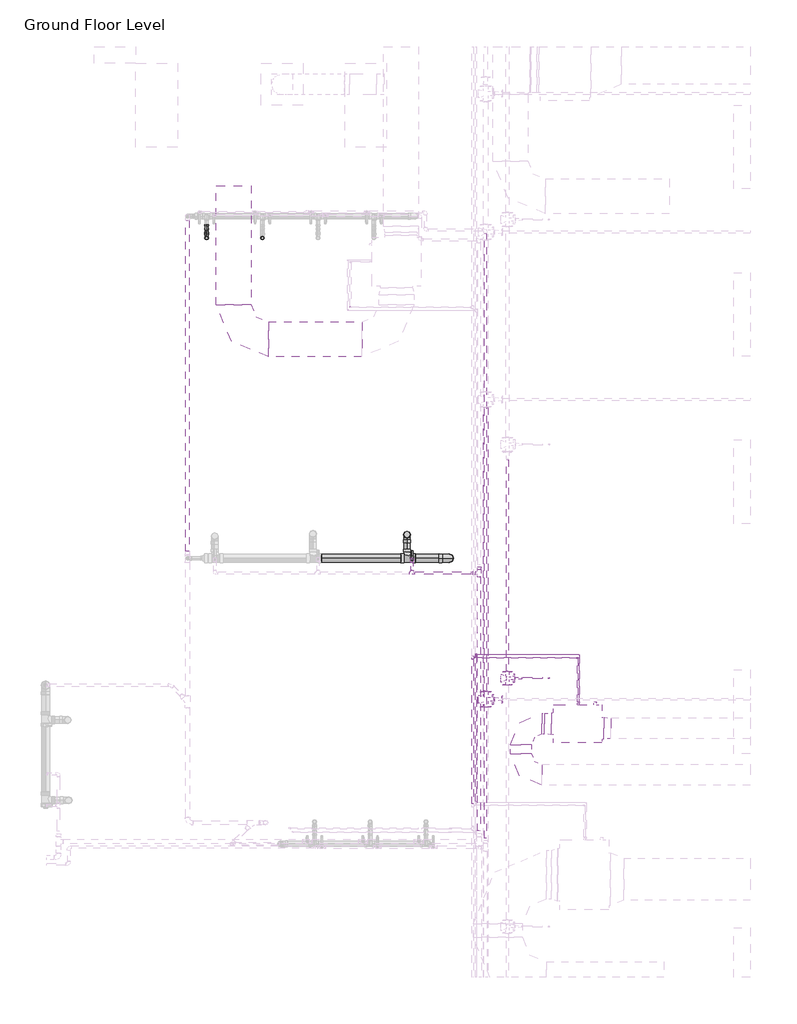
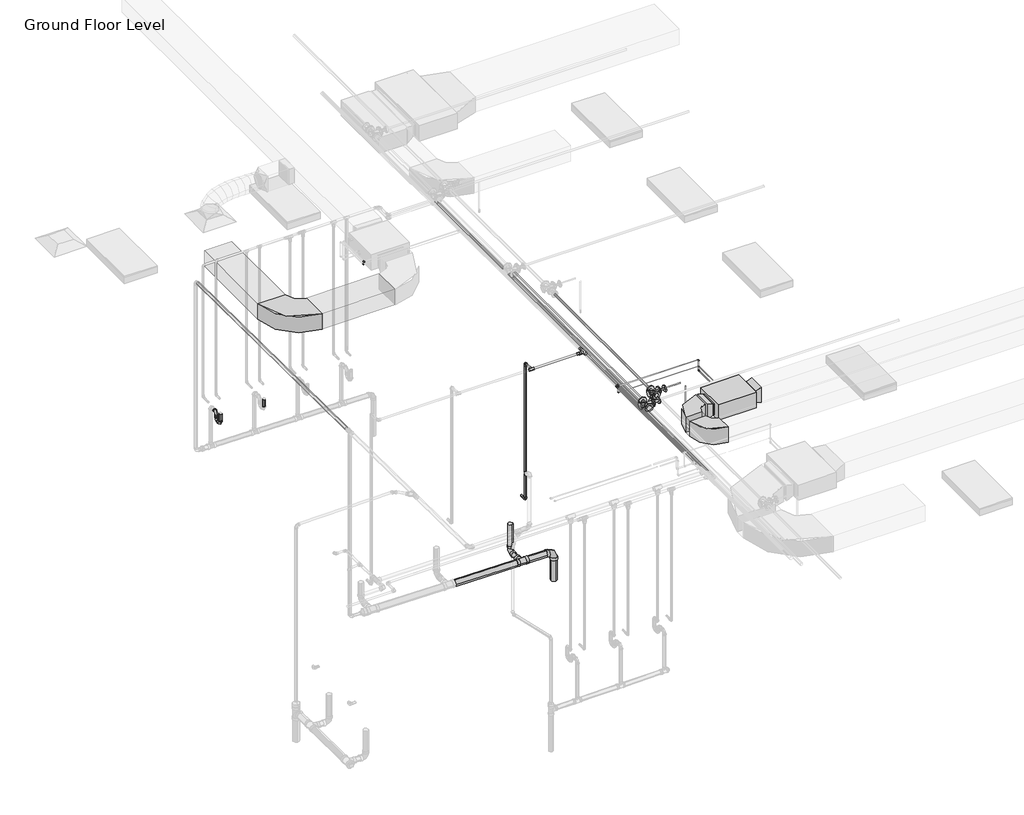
# One storey, part 20 of 68: 29 pipe segments, 26 pipe fittings, 5 duct fittings, 4 duct segments, 1 fire suppression terminal, 1 proxy.
"""IFC4 building model written with IfcOpenShell, lengths in millimetres."""

from ifc_helpers import new_model, si_unit, point, frame, frame_2d, origin, place, context, project, spatial, polyline, circle_curve, trimmed, segment, composite_curve, outline, extrude, transform, mapped, element, save
from components import fcu_daikin_iu_27d020f6, m_rectangular_elbow_radius_1_w_618da153, m_rectangular_elbow_radius_1_w_abe20169, m_rectangular_transition_angle_45_degree_bfac0661, m_rectangular_transition_angle_45_degree_d4666cfa, m_sprinkler_pendent_15_mm_pendent_06fcbd8e, m_bend_pvc_sch_40_dwv_standard_a4b99d37, m_bend_pvc_sch_40_dwv_standard_aa7efa4c, m_bend_pvc_sch_40_dwv_standard_1e7bdcc1, m_bend_pvc_sch_40_dwv_standard_776e50c4, m_elbow_generic_standard_a088f956, m_elbow_generic_standard_2a704253, m_reducer_flanged_cs_class_150_standard_d42b2106, m_reducer_flanged_cs_class_150_standard_a7631c35, m_tee_generic_standard_5b2ed4d4, m_tee_generic_standard_5078887e, m_tee_reducing_sanitary_pvc_sch_40_dwv_standard_b49161a9, m_tee_round_base_flanged_cs_class_150_standard_dd767e04, m_tee_round_base_flanged_cs_class_150_standard_7e5987a1, m_transition_generic_standard_44e35838, m_transition_generic_standard_2d362458, standard_517a5a8d, standard_72b35c3b, standard_08ff6011, standard_d0d0b892

model = new_model("IFC4")

# Units and contexts
model_context = context("Model", 3, world=origin())
ifc_project = project(units=[si_unit("LENGTHUNIT", "METRE", prefix="MILLI")], contexts=[model_context])

# Site, building, storey
site = spatial("IfcSite", under=ifc_project)
building = spatial("IfcBuilding", under=site)
storey = spatial("IfcBuildingStorey", under=building, Name="Ground Floor Level", Elevation=900.0)

# Proxy
placement = place(None, origin())
fcu_daikin_iu_shape = fcu_daikin_iu_27d020f6(model_context)
element("IfcBuildingElementProxy", 1, Name="FCU-DAIKIN IU : 2.3kW, 230V/50Hz/1Ph", ObjectType="FCU-DAIKIN IU : 2.3kW, 230V/50Hz/1Ph", at=placement, inside=storey, context=model_context, shape_type="MappedRepresentation", body=[
    mapped(fcu_daikin_iu_shape, transform((7003.8644074, -31136.6877703, 4080.0), x_axis=(0.0, 1.0, 0.0), y_axis=(-1.0, 0.0, 0.0), z_axis=(0.0, 0.0, 1.0))),
])

# Duct fittings
m_rectangular_elbow_radius_1_w_shape = m_rectangular_elbow_radius_1_w_618da153(model_context)
element("IfcDuctFitting", 2, ObjectType="M_Rectangular Elbow - Radius : 1 W", at=placement, inside=storey, context=model_context, shape_type="MappedRepresentation", body=[
    mapped(m_rectangular_elbow_radius_1_w_shape, transform((6188.4644074, -31136.6877703, 4221.2), x_axis=(-1.0, 0.0, 0.0), y_axis=(0.0, -1.0, 0.0), z_axis=(0.0, 0.0, 1.0))),
])
element("IfcDuctFitting", 3, ObjectType="M_Rectangular Elbow - Radius : 1 W", at=placement, inside=storey, context=model_context, shape_type="MappedRepresentation", body=[
    mapped(m_rectangular_elbow_radius_1_w_shape, transform((6188.4644074, -31864.7846466, 4221.2), x_axis=(0.0, -1.0, 0.0), y_axis=(1.0, 0.0, 0.0), z_axis=(0.0, 0.0, 1.0))),
])
m_rectangular_elbow_radius_1_w_2_shape = m_rectangular_elbow_radius_1_w_abe20169(model_context)
element("IfcDuctFitting", 4, ObjectType="M_Rectangular Elbow - Radius : 1 W", at=placement, inside=storey, context=model_context, shape_type="MappedRepresentation", body=[
    mapped(m_rectangular_elbow_radius_1_w_2_shape, transform((2065.6581888, -25622.6440715, 4075.2875), x_axis=(0.0, -1.0, 0.0), y_axis=(1.0, 0.0, 0.0), z_axis=(0.0, 0.0, 1.0))),
])
m_rectangular_transition_angle_45_degree_shape = m_rectangular_transition_angle_45_degree_bfac0661(model_context)
element("IfcDuctFitting", 5, ObjectType="M_Rectangular Transition - Angle : 45 Degree", at=placement, inside=storey, context=model_context, shape_type="MappedRepresentation", body=[
    mapped(m_rectangular_transition_angle_45_degree_shape, transform((6628.4644074, -31136.6877703, 4221.2), x_axis=(-1.0, 0.0, 0.0), y_axis=(0.0, -1.0, 0.0), z_axis=(0.0, 0.0, 1.0))),
])
m_rectangular_transition_angle_45_degree_2_shape = m_rectangular_transition_angle_45_degree_d4666cfa(model_context)
element("IfcDuctFitting", 6, ObjectType="M_Rectangular Transition - Angle : 45 Degree", at=placement, inside=storey, context=model_context, shape_type="MappedRepresentation", body=[
    mapped(m_rectangular_transition_angle_45_degree_2_shape, transform((7379.2644074, -31200.1877703, 4245.9125), x_axis=(1.0, 0.0, 0.0), y_axis=(0.0, 1.0, 0.0), z_axis=(0.0, 0.0, 1.0))),
])

# Duct segments
element("IfcDuctSegment", 7, ObjectType="Radius Elbows / Taps", at=placement, inside=storey, context=model_context, shape_type="SweptSolid", body=[
    extrude(outline(polyline([(0.0, -500.0), (0.0, 0.0), (1339.9999945, 0.0), (1339.9999945, -500.0), (0.0, -500.0)])), frame((3905.660192, -25872.6440715, 3925.3054453), z_axis=(-1.3392036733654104e-05, 0.0, 0.9999999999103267), x_axis=(-0.9999999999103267, 0.0, -1.3392036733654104e-05)), (0.0, 0.0, 1.0), 300.0),
])
element("IfcDuctSegment", 8, ObjectType="Radius Elbows / Taps", at=placement, inside=storey, context=model_context, shape_type="SweptSolid", body=[
    extrude(outline(polyline([(2315.6581888, -25122.6440715), (1815.6581888, -25122.6440715), (1815.6581888, -23422.6440715), (2315.6581888, -23422.6440715), (2315.6581888, -25122.6440715)])), frame((0.0, 0.0, 3925.2875), z_axis=(0.0, 0.0, 1.0), x_axis=(1.0, 0.0, 0.0)), (0.0, 0.0, 1.0), 300.0),
])
element("IfcDuctSegment", 9, ObjectType="Radius Elbows / Taps", at=placement, inside=storey, context=model_context, shape_type="SweptSolid", body=[
    extrude(outline(polyline([(6525.0153563, -30986.6877703), (6525.0153563, -31286.6877703), (6488.4644074, -31286.6877703), (6488.4644074, -30986.6877703), (6525.0153563, -30986.6877703)])), frame((0.0, 0.0, 4071.2), z_axis=(0.0, 0.0, 1.0), x_axis=(1.0, 0.0, 0.0)), (0.0, 0.0, 1.0), 300.0),
])
element("IfcDuctSegment", 10, ObjectType="Radius Elbows / Taps", at=placement, inside=storey, context=model_context, shape_type="SweptSolid", body=[
    extrude(outline(polyline([(6038.4644074, -31436.6877703), (6338.4644074, -31436.6877703), (6338.4644074, -31564.7846466), (6038.4644074, -31564.7846466), (6038.4644074, -31436.6877703)])), frame((0.0, 0.0, 4071.2), z_axis=(0.0, 0.0, 1.0), x_axis=(1.0, 0.0, 0.0)), (0.0, 0.0, 1.0), 300.0),
])

# Fire suppression terminal
m_sprinkler_pendent_15_mm_pendent_shape = m_sprinkler_pendent_15_mm_pendent_06fcbd8e(model_context)
element("IfcFireSuppressionTerminal", 11, ObjectType="M_Sprinkler - Pendent : 15 mm Pendent", at=placement, inside=storey, context=model_context, shape_type="MappedRepresentation", body=[
    mapped(m_sprinkler_pendent_15_mm_pendent_shape, transform((6592.5481019, -30483.0742399, 3650.0), x_axis=(1.0, 0.0, 0.0), y_axis=(0.0, 1.0, 0.0), z_axis=(0.0, 0.0, 1.0))),
])

# Pipe fittings
m_bend_pvc_sch_40_dwv_standard_shape = m_bend_pvc_sch_40_dwv_standard_a4b99d37(model_context)
element("IfcPipeFitting", 12, ObjectType="M_Bend - PVC - Sch 40 - DWV : Standard", at=placement, inside=storey, context=model_context, shape_type="MappedRepresentation", body=[
    mapped(m_bend_pvc_sch_40_dwv_standard_shape, transform((4553.7150181, -28421.2419494, 454.489269), x_axis=(0.0, 0.0, -1.0), y_axis=(0.0, -1.0, 0.0), z_axis=(-1.0, 0.0, 0.0))),
])
m_bend_pvc_sch_40_dwv_standard_2_shape = m_bend_pvc_sch_40_dwv_standard_aa7efa4c(model_context)
element("IfcPipeFitting", 13, ObjectType="M_Bend - PVC - Sch 40 - DWV : Standard", at=placement, inside=storey, context=model_context, shape_type="MappedRepresentation", body=[
    mapped(m_bend_pvc_sch_40_dwv_standard_2_shape, transform((5158.4803359, -28761.5689421, 448.4416158), x_axis=(0.9999500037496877, 0.0, -0.00999950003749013), y_axis=(-0.00999950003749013, 0.0, -0.9999500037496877), z_axis=(0.0, 1.0, 0.0))),
])
m_bend_pvc_sch_40_dwv_standard_3_shape = m_bend_pvc_sch_40_dwv_standard_1e7bdcc1(model_context)
element("IfcPipeFitting", 14, ObjectType="M_Bend - PVC - Sch 40 - DWV : Standard", at=placement, inside=storey, context=model_context, shape_type="MappedRepresentation", body=[
    mapped(m_bend_pvc_sch_40_dwv_standard_3_shape, transform((1678.7498, -24168.3528578, 1360.0000049), x_axis=(0.0, 0.0, -1.0), y_axis=(0.0, 1.0, 0.0), z_axis=(1.0, 0.0, 0.0))),
])
m_bend_pvc_sch_40_dwv_standard_4_shape = m_bend_pvc_sch_40_dwv_standard_776e50c4(model_context)
element("IfcPipeFitting", 15, ObjectType="M_Bend - PVC - Sch 40 - DWV : Standard", at=placement, inside=storey, context=model_context, shape_type="MappedRepresentation", body=[
    mapped(m_bend_pvc_sch_40_dwv_standard_4_shape, transform((1678.7498, -24038.3523645, 1358.7), x_axis=(0.0, 0.9999500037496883, -0.009999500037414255), y_axis=(0.0, 0.009999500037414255, 0.9999500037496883), z_axis=(1.0, 0.0, 0.0))),
])
element("IfcPipeFitting", 16, ObjectType="M_Bend - PVC - Sch 40 - DWV : Standard", at=placement, inside=storey, context=model_context, shape_type="MappedRepresentation", body=[
    mapped(m_bend_pvc_sch_40_dwv_standard_4_shape, transform((1678.7498, -24038.3523645, 1510.0493267), x_axis=(0.0, 0.0, 1.0), y_axis=(0.0, 1.0, 0.0), z_axis=(-1.0, 0.0, 0.0))),
])
m_elbow_generic_standard_shape = m_elbow_generic_standard_a088f956(model_context)
element("IfcPipeFitting", 17, ObjectType="M_Elbow - Generic : Standard", at=placement, inside=storey, context=model_context, shape_type="MappedRepresentation", body=[
    mapped(m_elbow_generic_standard_shape, transform((7003.8644074, -30187.4513653, 4390.0), x_axis=(1.0, 0.0, 0.0), y_axis=(0.0, 0.0, -1.0), z_axis=(0.0, 1.0, 0.0))),
])
element("IfcPipeFitting", 18, ObjectType="M_Elbow - Generic : Standard", at=placement, inside=storey, context=model_context, shape_type="MappedRepresentation", body=[
    mapped(m_elbow_generic_standard_shape, transform((7003.8644074, -30187.4513653, 4180.0), x_axis=(0.0, 0.0, -1.0), y_axis=(0.0, -1.0, 0.0), z_axis=(-1.0, 0.0, 0.0))),
])
element("IfcPipeFitting", 19, ObjectType="M_Elbow - Generic : Standard", at=placement, inside=storey, context=model_context, shape_type="MappedRepresentation", body=[
    mapped(m_elbow_generic_standard_shape, transform((3741.7995393, -25162.0896488, 4390.0), x_axis=(0.0, -1.0, 0.0), y_axis=(1.0, 0.0, 0.0), z_axis=(0.0, 0.0, 1.0))),
])
m_elbow_generic_standard_2_shape = m_elbow_generic_standard_2a704253(model_context)
element("IfcPipeFitting", 20, ObjectType="M_Elbow - Generic : Standard", at=placement, inside=storey, context=model_context, shape_type="MappedRepresentation", body=[
    mapped(m_elbow_generic_standard_2_shape, transform((3705.4496688, -25206.4899508, 4377.5), x_axis=(0.0, -1.0, 0.0), y_axis=(1.0, 0.0, 0.0), z_axis=(0.0, 0.0, 1.0))),
])
element("IfcPipeFitting", 21, ObjectType="M_Elbow - Generic : Standard", at=placement, inside=storey, context=model_context, shape_type="MappedRepresentation", body=[
    mapped(m_elbow_generic_standard_2_shape, transform((7028.8644074, -30144.9316538, 4230.8), x_axis=(0.0, 1.0, 0.0), y_axis=(-1.0, 0.0, 0.0), z_axis=(0.0, 0.0, 1.0))),
])
element("IfcPipeFitting", 22, ObjectType="M_Elbow - Generic : Standard", at=placement, inside=storey, context=model_context, shape_type="MappedRepresentation", body=[
    mapped(m_elbow_generic_standard_2_shape, transform((5543.9904113, -30144.9316538, 4230.8), x_axis=(0.0, 0.0, -1.0), y_axis=(1.0, 0.0, 0.0), z_axis=(0.0, -1.0, 0.0))),
])
m_reducer_flanged_cs_class_150_standard_shape = m_reducer_flanged_cs_class_150_standard_d42b2106(model_context)
element("IfcPipeFitting", 23, ObjectType="M_Reducer - Flanged - CS - Class 150 : Standard", at=placement, inside=storey, context=model_context, shape_type="MappedRepresentation", body=[
    mapped(m_reducer_flanged_cs_class_150_standard_shape, transform((6097.7664057, -30483.0742399, 4291.2754753), x_axis=(1.0, 0.0, 0.0), y_axis=(0.0, 0.0, -1.0), z_axis=(0.0, 1.0, 0.0))),
])
m_reducer_flanged_cs_class_150_standard_2_shape = m_reducer_flanged_cs_class_150_standard_a7631c35(model_context)
element("IfcPipeFitting", 24, ObjectType="M_Reducer - Flanged - CS - Class 150 : Standard", at=placement, inside=storey, context=model_context, shape_type="MappedRepresentation", body=[
    mapped(m_reducer_flanged_cs_class_150_standard_2_shape, transform((5798.6174894, -30785.1783804, 4347.5), x_axis=(1.0, 0.0, 0.0), y_axis=(0.0, 0.0, 1.0), z_axis=(0.0, -1.0, 0.0))),
])
m_tee_generic_standard_shape = m_tee_generic_standard_5b2ed4d4(model_context)
element("IfcPipeFitting", 25, ObjectType="M_Tee - Generic : Standard", at=placement, inside=storey, context=model_context, shape_type="MappedRepresentation", body=[
    mapped(m_tee_generic_standard_shape, transform((5543.9904113, -30144.9316538, 4377.5), x_axis=(0.0, -1.0, 0.0), y_axis=(0.0, 0.0, 1.0), z_axis=(-1.0, 0.0, 0.0))),
])
m_tee_generic_standard_2_shape = m_tee_generic_standard_5078887e(model_context)
element("IfcPipeFitting", 26, ObjectType="M_Tee - Generic : Standard", at=placement, inside=storey, context=model_context, shape_type="MappedRepresentation", body=[
    mapped(m_tee_generic_standard_2_shape, transform((5497.8951827, -30187.4513653, 4390.0), x_axis=(0.0, -1.0, 0.0), y_axis=(-1.0, 0.0, 0.0), z_axis=(0.0, 0.0, -1.0))),
])
m_tee_reducing_sanitary_pvc_sch_40_dwv_standard_shape = m_tee_reducing_sanitary_pvc_sch_40_dwv_standard_b49161a9(model_context)
element("IfcPipeFitting", 27, ObjectType="M_Tee Reducing Sanitary - PVC - Sch 40 - DWV : Standard", at=placement, inside=storey, context=model_context, shape_type="MappedRepresentation", body=[
    mapped(m_tee_reducing_sanitary_pvc_sch_40_dwv_standard_shape, transform((4553.7150181, -28761.5689421, 454.489269), x_axis=(-0.9999500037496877, 0.0, 0.009999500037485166), y_axis=(0.0, -1.0, 0.0), z_axis=(0.009999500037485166, 0.0, 0.9999500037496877))),
])
m_tee_round_base_flanged_cs_class_150_standard_shape = m_tee_round_base_flanged_cs_class_150_standard_dd767e04(model_context)
element("IfcPipeFitting", 28, ObjectType="M_Tee Round Base - Flanged - CS - Class 150 : Standard", at=placement, inside=storey, context=model_context, shape_type="MappedRepresentation", body=[
    mapped(m_tee_round_base_flanged_cs_class_150_standard_shape, transform((5684.6174894, -30785.1783804, 4347.5), x_axis=(0.0, -1.0, 0.0), y_axis=(-1.0, 0.0, 0.0), z_axis=(0.0, 0.0, -1.0))),
])
m_tee_round_base_flanged_cs_class_150_standard_2_shape = m_tee_round_base_flanged_cs_class_150_standard_7e5987a1(model_context)
element("IfcPipeFitting", 29, ObjectType="M_Tee Round Base - Flanged - CS - Class 150 : Standard", at=placement, inside=storey, context=model_context, shape_type="MappedRepresentation", body=[
    mapped(m_tee_round_base_flanged_cs_class_150_standard_2_shape, transform((5997.057812, -30483.0742399, 4291.0943441), x_axis=(0.0, 1.0, 0.0), y_axis=(-1.0, 0.0, 0.0), z_axis=(0.0, 0.0, 1.0))),
])
m_transition_generic_standard_shape = m_transition_generic_standard_44e35838(model_context)
element("IfcPipeFitting", 30, ObjectType="M_Transition - Generic : Standard", at=placement, inside=storey, context=model_context, shape_type="MappedRepresentation", body=[
    mapped(m_transition_generic_standard_shape, transform((5521.7076827, -30187.4513653, 4390.0), x_axis=(1.0, 0.0, 0.0), y_axis=(0.0, 1.0, 0.0), z_axis=(0.0, 0.0, 1.0))),
])
m_transition_generic_standard_2_shape = m_transition_generic_standard_2d362458(model_context)
element("IfcPipeFitting", 31, ObjectType="M_Transition - Generic : Standard", at=placement, inside=storey, context=model_context, shape_type="MappedRepresentation", body=[
    mapped(m_transition_generic_standard_2_shape, transform((5543.9904113, -30144.9316538, 4356.8625), x_axis=(0.0, 0.0, -1.0), y_axis=(1.0, 0.0, 0.0), z_axis=(0.0, -1.0, 0.0))),
])
standard_shape = standard_517a5a8d(model_context)
element("IfcPipeFitting", 32, ObjectType="M_Elbow - CPVC - Sch 40 : Standard", at=placement, inside=storey, context=model_context, shape_type="MappedRepresentation", body=[
    mapped(standard_shape, transform((4627.1152882, -28774.7846466, 1655.0), x_axis=(0.0, -1.0, 0.0), y_axis=(0.0, 0.0, 1.0), z_axis=(-1.0, 0.0, 0.0))),
])
element("IfcPipeFitting", 33, ObjectType="M_Elbow - CPVC - Sch 40 : Standard", at=placement, inside=storey, context=model_context, shape_type="MappedRepresentation", body=[
    mapped(standard_shape, transform((4627.1152882, -28774.7846466, 4300.0), x_axis=(0.0, 0.0, 1.0), y_axis=(0.0, -1.0, 0.0), z_axis=(1.0, 0.0, 0.0))),
])
standard_2_shape = standard_72b35c3b(model_context)
element("IfcPipeFitting", 34, ObjectType="M_Tee - CPVC - Sch 40 : Standard", at=placement, inside=storey, context=model_context, shape_type="MappedRepresentation", body=[
    mapped(standard_2_shape, transform((4627.1152882, -28974.7846466, 4300.0), x_axis=(-1.0, 0.0, 0.0), y_axis=(0.0, -1.0, 0.0), z_axis=(0.0, 0.0, 1.0))),
])
standard_3_shape = standard_08ff6011(model_context)
element("IfcPipeFitting", 35, ObjectType="M_Tee - CPVC - Sch 40 : Standard", at=placement, inside=storey, context=model_context, shape_type="MappedRepresentation", body=[
    mapped(standard_3_shape, transform((5589.646628, -28974.7846466, 4300.0), x_axis=(0.0, 1.0, 0.0), y_axis=(1.0, 0.0, 0.0), z_axis=(0.0, 0.0, -1.0))),
])
standard_4_shape = standard_d0d0b892(model_context)
element("IfcPipeFitting", 36, ObjectType="M_Coupling Reducing - CPVC - Sch 40 : Standard", at=placement, inside=storey, context=model_context, shape_type="MappedRepresentation", body=[
    mapped(standard_4_shape, transform((5589.646628, -28920.8096466, 4300.0), x_axis=(0.0, 1.0, 0.0), y_axis=(-1.0, 0.0, 0.0), z_axis=(0.0, 0.0, 1.0))),
])
element("IfcPipeFitting", 37, ObjectType="M_Coupling Reducing - CPVC - Sch 40 : Standard", at=placement, inside=storey, context=model_context, shape_type="MappedRepresentation", body=[
    mapped(standard_4_shape, transform((5535.671628, -28974.7846466, 4300.0), x_axis=(-1.0, 0.0, 0.0), y_axis=(0.0, -1.0, 0.0), z_axis=(0.0, 0.0, 1.0))),
])

# Pipe segments
element("IfcPipeSegment", 38, ObjectType="CPVC", at=placement, inside=storey, context=model_context, shape_type="SweptSolid", body=[
    extrude(outline(composite_curve([segment(trimmed(circle_curve(frame_2d((1655.0, 4627.1152882)), 16.7005), [point((1655.0, 4610.4147882))], [point((1638.2995, 4627.1152882))], False, "CARTESIAN"), True, "CONTINUOUS"), segment(trimmed(circle_curve(frame_2d((1655.0, 4627.1152882)), 16.7005), [point((1638.2995, 4627.1152882))], [point((1655.0, 4643.8157882))], False, "CARTESIAN"), True, "CONTINUOUS"), segment(trimmed(circle_curve(frame_2d((1655.0, 4627.1152882)), 16.7005), [point((1655.0, 4643.8157882))], [point((1671.7005, 4627.1152882))], False, "CARTESIAN"), True, "CONTINUOUS"), segment(trimmed(circle_curve(frame_2d((1655.0, 4627.1152882)), 16.7005), [point((1671.7005, 4627.1152882))], [point((1655.0, 4610.4147882))], False, "CARTESIAN"), True, "CONTINUOUS")], self_intersect=False)), frame((0.0, -28731.5220966, 0.0), z_axis=(0.0, 1.0, 0.0), x_axis=(0.0, 0.0, 1.0)), (0.0, 0.0, 1.0), 76.73745),
])
element("IfcPipeSegment", 39, ObjectType="CPVC", at=placement, inside=storey, context=model_context, shape_type="SweptSolid", body=[
    extrude(outline(composite_curve([segment(trimmed(circle_curve(frame_2d((4300.0, 4627.1152882)), 16.7005), [point((4300.0, 4610.4147882))], [point((4283.2995, 4627.1152882))], False, "CARTESIAN"), True, "CONTINUOUS"), segment(trimmed(circle_curve(frame_2d((4300.0, 4627.1152882)), 16.7005), [point((4283.2995, 4627.1152882))], [point((4300.0, 4643.8157882))], False, "CARTESIAN"), True, "CONTINUOUS"), segment(trimmed(circle_curve(frame_2d((4300.0, 4627.1152882)), 16.7005), [point((4300.0, 4643.8157882))], [point((4316.7005, 4627.1152882))], False, "CARTESIAN"), True, "CONTINUOUS"), segment(trimmed(circle_curve(frame_2d((4300.0, 4627.1152882)), 16.7005), [point((4316.7005, 4627.1152882))], [point((4300.0, 4610.4147882))], False, "CARTESIAN"), True, "CONTINUOUS")], self_intersect=False)), frame((0.0, -28935.0844466, 0.0), z_axis=(0.0, 1.0, 0.0), x_axis=(0.0, 0.0, 1.0)), (0.0, 0.0, 1.0), 117.03725),
])
element("IfcPipeSegment", 40, ObjectType="CPVC", at=placement, inside=storey, context=model_context, shape_type="SweptSolid", body=[
    extrude(outline(composite_curve([segment(trimmed(circle_curve(frame_2d((4627.1152882, -28774.7846466)), 16.7005), [point((4610.4147882, -28774.7846466))], [point((4627.1152882, -28758.0841466))], False, "CARTESIAN"), True, "CONTINUOUS"), segment(trimmed(circle_curve(frame_2d((4627.1152882, -28774.7846466)), 16.7005), [point((4627.1152882, -28758.0841466))], [point((4643.8157882, -28774.7846466))], False, "CARTESIAN"), True, "CONTINUOUS"), segment(trimmed(circle_curve(frame_2d((4627.1152882, -28774.7846466)), 16.7005), [point((4643.8157882, -28774.7846466))], [point((4627.1152882, -28791.4851466))], False, "CARTESIAN"), True, "CONTINUOUS"), segment(trimmed(circle_curve(frame_2d((4627.1152882, -28774.7846466)), 16.7005), [point((4627.1152882, -28791.4851466))], [point((4610.4147882, -28774.7846466))], False, "CARTESIAN"), True, "CONTINUOUS")], self_intersect=False)), frame((0.0, 0.0, 1698.26255), z_axis=(0.0, 0.0, 1.0), x_axis=(1.0, 0.0, 0.0)), (0.0, 0.0, 1.0), 2558.4749),
])
element("IfcPipeSegment", 41, ObjectType="CPVC", at=placement, inside=storey, context=model_context, shape_type="SweptSolid", body=[
    extrude(outline(composite_curve([segment(trimmed(circle_curve(frame_2d((-28974.7846466, 4300.0)), 16.7005), [point((-28958.0841466, 4300.0))], [point((-28974.7846466, 4283.2995))], False, "CARTESIAN"), True, "CONTINUOUS"), segment(trimmed(circle_curve(frame_2d((-28974.7846466, 4300.0)), 16.7005), [point((-28974.7846466, 4283.2995))], [point((-28991.4851466, 4300.0))], False, "CARTESIAN"), True, "CONTINUOUS"), segment(trimmed(circle_curve(frame_2d((-28974.7846466, 4300.0)), 16.7005), [point((-28991.4851466, 4300.0))], [point((-28974.7846466, 4316.7005))], False, "CARTESIAN"), True, "CONTINUOUS"), segment(trimmed(circle_curve(frame_2d((-28974.7846466, 4300.0)), 16.7005), [point((-28974.7846466, 4316.7005))], [point((-28958.0841466, 4300.0))], False, "CARTESIAN"), True, "CONTINUOUS")], self_intersect=False)), frame((4666.8154882, 0.0, 0.0), z_axis=(1.0, 0.0, 0.0), x_axis=(0.0, 1.0, 0.0)), (0.0, 0.0, 1.0), 802.7372648),
])
element("IfcPipeSegment", 42, ObjectType="CPVC", at=placement, inside=storey, context=model_context, shape_type="SweptSolid", body=[
    extrude(outline(composite_curve([segment(trimmed(circle_curve(frame_2d((4300.0, 5589.646628)), 21.082), [point((4300.0, 5568.564628))], [point((4278.918, 5589.646628))], False, "CARTESIAN"), True, "CONTINUOUS"), segment(trimmed(circle_curve(frame_2d((4300.0, 5589.646628)), 21.082), [point((4278.918, 5589.646628))], [point((4300.0, 5610.728628))], False, "CARTESIAN"), True, "CONTINUOUS"), segment(trimmed(circle_curve(frame_2d((4300.0, 5589.646628)), 21.082), [point((4300.0, 5610.728628))], [point((4321.082, 5589.646628))], False, "CARTESIAN"), True, "CONTINUOUS"), segment(trimmed(circle_curve(frame_2d((4300.0, 5589.646628)), 21.082), [point((4321.082, 5589.646628))], [point((4300.0, 5568.564628))], False, "CARTESIAN"), True, "CONTINUOUS")], self_intersect=False)), frame((0.0, -32672.9715951, 0.0), z_axis=(0.0, 1.0, 0.0), x_axis=(0.0, 0.0, 1.0)), (0.0, 0.0, 1.0), 3644.2119485),
])
element("IfcPipeSegment", 43, ObjectType="CPVC", at=placement, inside=storey, context=model_context, shape_type="SweptSolid", body=[
    extrude(outline(composite_curve([segment(trimmed(circle_curve(frame_2d((4250.0, 5680.5575802)), 16.7005), [point((4250.0, 5697.2580802))], [point((4266.7005, 5680.5575802))], False, "CARTESIAN"), True, "CONTINUOUS"), segment(trimmed(circle_curve(frame_2d((4250.0, 5680.5575802)), 16.7005), [point((4266.7005, 5680.5575802))], [point((4250.0, 5663.8570802))], False, "CARTESIAN"), True, "CONTINUOUS"), segment(trimmed(circle_curve(frame_2d((4250.0, 5680.5575802)), 16.7005), [point((4250.0, 5663.8570802))], [point((4233.2995, 5680.5575802))], False, "CARTESIAN"), True, "CONTINUOUS"), segment(trimmed(circle_curve(frame_2d((4250.0, 5680.5575802)), 16.7005), [point((4233.2995, 5680.5575802))], [point((4250.0, 5697.2580802))], False, "CARTESIAN"), True, "CONTINUOUS")], self_intersect=False)), frame((0.0, -32774.921633, 0.0), z_axis=(0.0, 1.0, 0.0), x_axis=(0.0, 0.0, 1.0)), (0.0, 0.0, 1.0), 8676.73745),
])
element("IfcPipeSegment", 44, ObjectType="Copper", at=placement, inside=storey, context=model_context, shape_type="SweptSolid", body=[
    extrude(outline(composite_curve([segment(trimmed(circle_curve(frame_2d((-30187.4513653, 4390.0)), 6.5), [point((-30193.9513653, 4390.0))], [point((-30187.4513653, 4396.5))], False, "CARTESIAN"), True, "CONTINUOUS"), segment(trimmed(circle_curve(frame_2d((-30187.4513653, 4390.0)), 6.5), [point((-30187.4513653, 4396.5))], [point((-30180.9513653, 4390.0))], False, "CARTESIAN"), True, "CONTINUOUS"), segment(trimmed(circle_curve(frame_2d((-30187.4513653, 4390.0)), 6.5), [point((-30180.9513653, 4390.0))], [point((-30187.4513653, 4383.5))], False, "CARTESIAN"), True, "CONTINUOUS"), segment(trimmed(circle_curve(frame_2d((-30187.4513653, 4390.0)), 6.5), [point((-30187.4513653, 4383.5))], [point((-30193.9513653, 4390.0))], False, "CARTESIAN"), True, "CONTINUOUS")], self_intersect=False)), frame((5527.2639327, 0.0, 0.0), z_axis=(1.0, 0.0, 0.0), x_axis=(0.0, 1.0, 0.0)), (0.0, 0.0, 1.0), 1462.3129748),
])
element("IfcPipeSegment", 45, ObjectType="Copper", at=placement, inside=storey, context=model_context, shape_type="SweptSolid", body=[
    extrude(outline(composite_curve([segment(trimmed(circle_curve(frame_2d((4390.0, 5497.8951827)), 9.75), [point((4390.0, 5507.6451827))], [point((4399.75, 5497.8951827))], False, "CARTESIAN"), True, "CONTINUOUS"), segment(trimmed(circle_curve(frame_2d((4390.0, 5497.8951827)), 9.75), [point((4399.75, 5497.8951827))], [point((4390.0, 5488.1451827))], False, "CARTESIAN"), True, "CONTINUOUS"), segment(trimmed(circle_curve(frame_2d((4390.0, 5497.8951827)), 9.75), [point((4390.0, 5488.1451827))], [point((4380.25, 5497.8951827))], False, "CARTESIAN"), True, "CONTINUOUS"), segment(trimmed(circle_curve(frame_2d((4390.0, 5497.8951827)), 9.75), [point((4380.25, 5497.8951827))], [point((4390.0, 5507.6451827))], False, "CARTESIAN"), True, "CONTINUOUS")], self_intersect=False)), frame((0.0, -32283.6388653, 0.0), z_axis=(0.0, 1.0, 0.0), x_axis=(0.0, 0.0, 1.0)), (0.0, 0.0, 1.0), 2072.375),
])
element("IfcPipeSegment", 46, ObjectType="Copper", at=placement, inside=storey, context=model_context, shape_type="SweptSolid", body=[
    extrude(outline(composite_curve([segment(trimmed(circle_curve(frame_2d((4180.0, 7003.8644074)), 6.5), [point((4180.0, 6997.3644074))], [point((4173.5, 7003.8644074))], False, "CARTESIAN"), True, "CONTINUOUS"), segment(trimmed(circle_curve(frame_2d((4180.0, 7003.8644074)), 6.5), [point((4173.5, 7003.8644074))], [point((4180.0, 7010.3644074))], False, "CARTESIAN"), True, "CONTINUOUS"), segment(trimmed(circle_curve(frame_2d((4180.0, 7003.8644074)), 6.5), [point((4180.0, 7010.3644074))], [point((4186.5, 7003.8644074))], False, "CARTESIAN"), True, "CONTINUOUS"), segment(trimmed(circle_curve(frame_2d((4180.0, 7003.8644074)), 6.5), [point((4186.5, 7003.8644074))], [point((4180.0, 6997.3644074))], False, "CARTESIAN"), True, "CONTINUOUS")], self_intersect=False)), frame((0.0, -30823.5877703, 0.0), z_axis=(0.0, 1.0, 0.0), x_axis=(0.0, 0.0, 1.0)), (0.0, 0.0, 1.0), 621.8489049),
])
element("IfcPipeSegment", 47, ObjectType="Copper", at=placement, inside=storey, context=model_context, shape_type="SweptSolid", body=[
    extrude(outline(composite_curve([segment(trimmed(circle_curve(frame_2d((4230.8, 7028.8644074)), 3.35), [point((4230.8, 7025.5144074))], [point((4227.45, 7028.8644074))], False, "CARTESIAN"), True, "CONTINUOUS"), segment(trimmed(circle_curve(frame_2d((4230.8, 7028.8644074)), 3.35), [point((4227.45, 7028.8644074))], [point((4230.8, 7032.2144074))], False, "CARTESIAN"), True, "CONTINUOUS"), segment(trimmed(circle_curve(frame_2d((4230.8, 7028.8644074)), 3.35), [point((4230.8, 7032.2144074))], [point((4234.15, 7028.8644074))], False, "CARTESIAN"), True, "CONTINUOUS"), segment(trimmed(circle_curve(frame_2d((4230.8, 7028.8644074)), 3.35), [point((4234.15, 7028.8644074))], [point((4230.8, 7025.5144074))], False, "CARTESIAN"), True, "CONTINUOUS")], self_intersect=False)), frame((0.0, -30823.5877703, 0.0), z_axis=(0.0, 1.0, 0.0), x_axis=(0.0, 0.0, 1.0)), (0.0, 0.0, 1.0), 667.5186165),
])
element("IfcPipeSegment", 48, ObjectType="Copper", at=placement, inside=storey, context=model_context, shape_type="SweptSolid", body=[
    extrude(outline(composite_curve([segment(trimmed(circle_curve(frame_2d((7003.8644074, -30187.4513653)), 6.5), [point((7010.3644074, -30187.4513653))], [point((7003.8644074, -30193.9513653))], False, "CARTESIAN"), True, "CONTINUOUS"), segment(trimmed(circle_curve(frame_2d((7003.8644074, -30187.4513653)), 6.5), [point((7003.8644074, -30193.9513653))], [point((6997.3644074, -30187.4513653))], False, "CARTESIAN"), True, "CONTINUOUS"), segment(trimmed(circle_curve(frame_2d((7003.8644074, -30187.4513653)), 6.5), [point((6997.3644074, -30187.4513653))], [point((7003.8644074, -30180.9513653))], False, "CARTESIAN"), True, "CONTINUOUS"), segment(trimmed(circle_curve(frame_2d((7003.8644074, -30187.4513653)), 6.5), [point((7003.8644074, -30180.9513653))], [point((7010.3644074, -30187.4513653))], False, "CARTESIAN"), True, "CONTINUOUS")], self_intersect=False)), frame((0.0, 0.0, 4194.2875), z_axis=(0.0, 0.0, 1.0), x_axis=(1.0, 0.0, 0.0)), (0.0, 0.0, 1.0), 181.425),
])
element("IfcPipeSegment", 49, ObjectType="Copper", at=placement, inside=storey, context=model_context, shape_type="SweptSolid", body=[
    extrude(outline(composite_curve([segment(trimmed(circle_curve(frame_2d((4377.5, 5543.9904113)), 6.5), [point((4377.5, 5550.4904113))], [point((4384.0, 5543.9904113))], False, "CARTESIAN"), True, "CONTINUOUS"), segment(trimmed(circle_curve(frame_2d((4377.5, 5543.9904113)), 6.5), [point((4384.0, 5543.9904113))], [point((4377.5, 5537.4904113))], False, "CARTESIAN"), True, "CONTINUOUS"), segment(trimmed(circle_curve(frame_2d((4377.5, 5543.9904113)), 6.5), [point((4377.5, 5537.4904113))], [point((4371.0, 5543.9904113))], False, "CARTESIAN"), True, "CONTINUOUS"), segment(trimmed(circle_curve(frame_2d((4377.5, 5543.9904113)), 6.5), [point((4371.0, 5543.9904113))], [point((4377.5, 5550.4904113))], False, "CARTESIAN"), True, "CONTINUOUS")], self_intersect=False)), frame((0.0, -32244.2941538, 0.0), z_axis=(0.0, 1.0, 0.0), x_axis=(0.0, 0.0, 1.0)), (0.0, 0.0, 1.0), 2078.725),
])
element("IfcPipeSegment", 50, ObjectType="Copper", at=placement, inside=storey, context=model_context, shape_type="SweptSolid", body=[
    extrude(outline(composite_curve([segment(trimmed(circle_curve(frame_2d((5543.9904113, -30144.9316538)), 3.35), [point((5547.3404113, -30144.9316538))], [point((5543.9904113, -30148.2816538))], False, "CARTESIAN"), True, "CONTINUOUS"), segment(trimmed(circle_curve(frame_2d((5543.9904113, -30144.9316538)), 3.35), [point((5543.9904113, -30148.2816538))], [point((5540.6404113, -30144.9316538))], False, "CARTESIAN"), True, "CONTINUOUS"), segment(trimmed(circle_curve(frame_2d((5543.9904113, -30144.9316538)), 3.35), [point((5540.6404113, -30144.9316538))], [point((5543.9904113, -30141.5816538))], False, "CARTESIAN"), True, "CONTINUOUS"), segment(trimmed(circle_curve(frame_2d((5543.9904113, -30144.9316538)), 3.35), [point((5543.9904113, -30141.5816538))], [point((5547.3404113, -30144.9316538))], False, "CARTESIAN"), True, "CONTINUOUS")], self_intersect=False)), frame((0.0, 0.0, 4241.9375), z_axis=(0.0, 0.0, 1.0), x_axis=(1.0, 0.0, 0.0)), (0.0, 0.0, 1.0), 110.95625),
])
element("IfcPipeSegment", 51, ObjectType="Copper", at=placement, inside=storey, context=model_context, shape_type="SweptSolid", body=[
    extrude(outline(composite_curve([segment(trimmed(circle_curve(frame_2d((-30144.9316538, 4230.8)), 3.35), [point((-30148.2816538, 4230.8))], [point((-30144.9316538, 4234.15))], False, "CARTESIAN"), True, "CONTINUOUS"), segment(trimmed(circle_curve(frame_2d((-30144.9316538, 4230.8)), 3.35), [point((-30144.9316538, 4234.15))], [point((-30141.5816538, 4230.8))], False, "CARTESIAN"), True, "CONTINUOUS"), segment(trimmed(circle_curve(frame_2d((-30144.9316538, 4230.8)), 3.35), [point((-30141.5816538, 4230.8))], [point((-30144.9316538, 4227.45))], False, "CARTESIAN"), True, "CONTINUOUS"), segment(trimmed(circle_curve(frame_2d((-30144.9316538, 4230.8)), 3.35), [point((-30144.9316538, 4227.45))], [point((-30148.2816538, 4230.8))], False, "CARTESIAN"), True, "CONTINUOUS")], self_intersect=False)), frame((5555.1279113, 0.0, 0.0), z_axis=(1.0, 0.0, 0.0), x_axis=(0.0, 1.0, 0.0)), (0.0, 0.0, 1.0), 1462.5989961),
])
element("IfcPipeSegment", 52, ObjectType="PVC - DWV", at=placement, inside=storey, context=model_context, shape_type="SweptSolid", body=[
    extrude(outline(composite_curve([segment(trimmed(circle_curve(frame_2d((1678.7498, -24168.3528578)), 24.13), [point((1702.8798, -24168.3528578))], [point((1678.7498, -24192.4828578))], False, "CARTESIAN"), True, "CONTINUOUS"), segment(trimmed(circle_curve(frame_2d((1678.7498, -24168.3528578)), 24.13), [point((1678.7498, -24192.4828578))], [point((1654.6198, -24168.3528578))], False, "CARTESIAN"), True, "CONTINUOUS"), segment(trimmed(circle_curve(frame_2d((1678.7498, -24168.3528578)), 24.13), [point((1654.6198, -24168.3528578))], [point((1678.7498, -24144.2228578))], False, "CARTESIAN"), True, "CONTINUOUS"), segment(trimmed(circle_curve(frame_2d((1678.7498, -24168.3528578)), 24.13), [point((1678.7498, -24144.2228578))], [point((1702.8798, -24168.3528578))], False, "CARTESIAN"), True, "CONTINUOUS")], self_intersect=False)), frame((0.0, 0.0, 1421.8998049), z_axis=(0.0, 0.0, 1.0), x_axis=(1.0, 0.0, 0.0)), (0.0, 0.0, 1.0), 128.1001951),
])
element("IfcPipeSegment", 53, ObjectType="PVC - DWV", at=placement, inside=storey, context=model_context, shape_type="SweptSolid", body=[
    extrude(outline(composite_curve([segment(trimmed(circle_curve(frame_2d((0.0, -24.1299999)), 24.13), [point((24.13, -24.1299999))], [point((0.0, -48.2599999))], False, "CARTESIAN"), True, "CONTINUOUS"), segment(trimmed(circle_curve(frame_2d((0.0, -24.1299999)), 24.13), [point((0.0, -48.2599999))], [point((-24.13, -24.1299999))], False, "CARTESIAN"), True, "CONTINUOUS"), segment(trimmed(circle_curve(frame_2d((0.0, -24.1299999)), 24.13), [point((-24.13, -24.1299999))], [point((0.0, 0.0))], False, "CARTESIAN"), True, "CONTINUOUS"), segment(trimmed(circle_curve(frame_2d((0.0, -24.1299999)), 24.13), [point((0.0, 0.0))], [point((24.13, -24.1299999))], False, "CARTESIAN"), True, "CONTINUOUS")], self_intersect=False)), frame((1678.7498, -24100.0077818, 1383.4477606), z_axis=(0.0, -0.9999500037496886, 0.0099995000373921), x_axis=(1.0, 0.0, 0.0)), (0.0, 0.0, 1.0), 6.2073931),
])
element("IfcPipeSegment", 54, ObjectType="PVC - DWV", at=placement, inside=storey, context=model_context, shape_type="SweptSolid", body=[
    extrude(outline(composite_curve([segment(trimmed(circle_curve(frame_2d((1678.7498, -24038.3523645)), 24.13), [point((1654.6198, -24038.3523645))], [point((1678.7498, -24014.2223645))], False, "CARTESIAN"), True, "CONTINUOUS"), segment(trimmed(circle_curve(frame_2d((1678.7498, -24038.3523645)), 24.13), [point((1678.7498, -24014.2223645))], [point((1702.8798, -24038.3523645))], False, "CARTESIAN"), True, "CONTINUOUS"), segment(trimmed(circle_curve(frame_2d((1678.7498, -24038.3523645)), 24.13), [point((1702.8798, -24038.3523645))], [point((1678.7498, -24062.4823645))], False, "CARTESIAN"), True, "CONTINUOUS"), segment(trimmed(circle_curve(frame_2d((1678.7498, -24038.3523645)), 24.13), [point((1678.7498, -24062.4823645))], [point((1654.6198, -24038.3523645))], False, "CARTESIAN"), True, "CONTINUOUS")], self_intersect=False)), frame((0.0, 0.0, 1420.5998), z_axis=(0.0, 0.0, 1.0), x_axis=(1.0, 0.0, 0.0)), (0.0, 0.0, 1.0), 27.5497267),
])
element("IfcPipeSegment", 55, ObjectType="PVC - DWV", at=placement, inside=storey, context=model_context, shape_type="SweptSolid", body=[
    extrude(outline(composite_curve([segment(trimmed(circle_curve(frame_2d((2478.7498, -24168.3528578)), 24.13), [point((2454.6198, -24168.3528578))], [point((2478.7498, -24144.2228578))], False, "CARTESIAN"), True, "CONTINUOUS"), segment(trimmed(circle_curve(frame_2d((2478.7498, -24168.3528578)), 24.13), [point((2478.7498, -24144.2228578))], [point((2502.8798, -24168.3528578))], False, "CARTESIAN"), True, "CONTINUOUS"), segment(trimmed(circle_curve(frame_2d((2478.7498, -24168.3528578)), 24.13), [point((2502.8798, -24168.3528578))], [point((2478.7498, -24192.4828578))], False, "CARTESIAN"), True, "CONTINUOUS"), segment(trimmed(circle_curve(frame_2d((2478.7498, -24168.3528578)), 24.13), [point((2478.7498, -24192.4828578))], [point((2454.6198, -24168.3528578))], False, "CARTESIAN"), True, "CONTINUOUS")], self_intersect=False)), frame((0.0, 0.0, 1421.89981), z_axis=(0.0, 0.0, 1.0), x_axis=(1.0, 0.0, 0.0)), (0.0, 0.0, 1.0), 128.10019),
])
element("IfcPipeSegment", 56, ObjectType="PVC - DWV", at=placement, inside=storey, context=model_context, shape_type="SweptSolid", body=[
    extrude(outline(composite_curve([segment(trimmed(circle_curve(frame_2d((0.0, -24.1299999)), 24.13), [point((24.13, -24.1299999))], [point((0.0, -48.2599999))], False, "CARTESIAN"), True, "CONTINUOUS"), segment(trimmed(circle_curve(frame_2d((0.0, -24.1299999)), 24.13), [point((0.0, -48.2599999))], [point((-24.13, -24.1299999))], False, "CARTESIAN"), True, "CONTINUOUS"), segment(trimmed(circle_curve(frame_2d((0.0, -24.1299999)), 24.13), [point((-24.13, -24.1299999))], [point((0.0, 0.0))], False, "CARTESIAN"), True, "CONTINUOUS"), segment(trimmed(circle_curve(frame_2d((0.0, -24.1299999)), 24.13), [point((0.0, 0.0))], [point((24.13, -24.1299999))], False, "CARTESIAN"), True, "CONTINUOUS")], self_intersect=False)), frame((2478.7498, -24100.0072752, 1383.4477606), z_axis=(0.0, -0.9999500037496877, 0.009999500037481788), x_axis=(1.0, 0.0, 0.0)), (0.0, 0.0, 1.0), 6.2078998),
])
element("IfcPipeSegment", 57, ObjectType="PVC - DWV", at=placement, inside=storey, context=model_context, shape_type="SweptSolid", body=[
    extrude(outline(composite_curve([segment(trimmed(circle_curve(frame_2d((0.0, -57.15)), 57.15), [point((-57.15, -57.15))], [point((0.0, 0.0))], False, "CARTESIAN"), True, "CONTINUOUS"), segment(trimmed(circle_curve(frame_2d((0.0, -57.15)), 57.15), [point((0.0, 0.0))], [point((57.15, -57.15))], False, "CARTESIAN"), True, "CONTINUOUS"), segment(trimmed(circle_curve(frame_2d((0.0, -57.15)), 57.15), [point((57.15, -57.15))], [point((0.0, -114.3))], False, "CARTESIAN"), True, "CONTINUOUS"), segment(trimmed(circle_curve(frame_2d((0.0, -57.15)), 57.15), [point((0.0, -114.3))], [point((-57.15, -57.15))], False, "CARTESIAN"), True, "CONTINUOUS")], self_intersect=False)), frame((5158.4418398, -28818.7189421, -100.0), z_axis=(9.491942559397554e-05, 0.0, 0.9999999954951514), x_axis=(-0.9999999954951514, 0.0, 9.491942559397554e-05)), (0.0, 0.0, 1.0), 405.5666177),
])
element("IfcPipeSegment", 58, ObjectType="PVC - DWV", at=placement, inside=storey, context=model_context, shape_type="SweptSolid", body=[
    extrude(outline(composite_curve([segment(trimmed(circle_curve(frame_2d((0.0, -44.45)), 44.45), [point((-44.45, -44.45))], [point((0.0, 0.0))], False, "CARTESIAN"), True, "CONTINUOUS"), segment(trimmed(circle_curve(frame_2d((0.0, -44.45)), 44.45), [point((0.0, 0.0))], [point((44.45, -44.45))], False, "CARTESIAN"), True, "CONTINUOUS"), segment(trimmed(circle_curve(frame_2d((0.0, -44.45)), 44.45), [point((44.45, -44.45))], [point((0.0, -88.9))], False, "CARTESIAN"), True, "CONTINUOUS"), segment(trimmed(circle_curve(frame_2d((0.0, -44.45)), 44.45), [point((0.0, -88.9))], [point((-44.45, -44.45))], False, "CARTESIAN"), True, "CONTINUOUS")], self_intersect=False)), frame((4553.7150181, -28465.6919494, 570.389469), z_axis=(-1.0723158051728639e-05, 0.0, 0.999999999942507), x_axis=(-0.999999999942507, 0.0, -1.0723158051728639e-05)), (0.0, 0.0, 1.0), 419.610531),
])
element("IfcPipeSegment", 59, ObjectType="PVC - DWV", at=placement, inside=storey, context=model_context, shape_type="SweptSolid", body=[
    extrude(outline(composite_curve([segment(trimmed(circle_curve(frame_2d((454.489269, 4553.7150181)), 44.45), [point((454.489269, 4509.2650181))], [point((410.039269, 4553.7150181))], False, "CARTESIAN"), True, "CONTINUOUS"), segment(trimmed(circle_curve(frame_2d((454.489269, 4553.7150181)), 44.45), [point((410.039269, 4553.7150181))], [point((454.489269, 4598.1650181))], False, "CARTESIAN"), True, "CONTINUOUS"), segment(trimmed(circle_curve(frame_2d((454.489269, 4553.7150181)), 44.45), [point((454.489269, 4598.1650181))], [point((498.939269, 4553.7150181))], False, "CARTESIAN"), True, "CONTINUOUS"), segment(trimmed(circle_curve(frame_2d((454.489269, 4553.7150181)), 44.45), [point((498.939269, 4553.7150181))], [point((454.489269, 4509.2650181))], False, "CARTESIAN"), True, "CONTINUOUS")], self_intersect=False)), frame((0.0, -28632.9687421, 0.0), z_axis=(0.0, 1.0, 0.0), x_axis=(0.0, 0.0, 1.0)), (0.0, 0.0, 1.0), 95.8265928),
])
element("IfcPipeSegment", 60, ObjectType="PVC - DWV", at=placement, inside=storey, context=model_context, shape_type="SweptSolid", body=[
    extrude(outline(composite_curve([segment(trimmed(circle_curve(frame_2d((0.0, -57.15)), 57.15), [point((0.0, -114.3))], [point((-57.15, -57.15))], False, "CARTESIAN"), True, "CONTINUOUS"), segment(trimmed(circle_curve(frame_2d((0.0, -57.15)), 57.15), [point((-57.15, -57.15))], [point((0.0, 0.0))], False, "CARTESIAN"), True, "CONTINUOUS"), segment(trimmed(circle_curve(frame_2d((0.0, -57.15)), 57.15), [point((0.0, 0.0))], [point((57.15, -57.15))], False, "CARTESIAN"), True, "CONTINUOUS"), segment(trimmed(circle_curve(frame_2d((0.0, -57.15)), 57.15), [point((57.15, -57.15))], [point((0.0, -114.3))], False, "CARTESIAN"), True, "CONTINUOUS")], self_intersect=False)), frame((5015.6124792, -28704.4189421, 449.8702944), z_axis=(-0.9999500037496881, 0.0, 0.009999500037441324), x_axis=(0.009999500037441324, 0.0, 0.9999500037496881)), (0.0, 0.0, 1.0), 341.2705553),
])
element("IfcPipeSegment", 61, ObjectType="PVC - DWV", at=placement, inside=storey, context=model_context, shape_type="SweptSolid", body=[
    extrude(outline(composite_curve([segment(trimmed(circle_curve(frame_2d((0.0, -57.15)), 57.15), [point((0.0, -114.3))], [point((-57.15, -57.15))], False, "CARTESIAN"), True, "CONTINUOUS"), segment(trimmed(circle_curve(frame_2d((0.0, -57.15)), 57.15), [point((-57.15, -57.15))], [point((0.0, 0.0))], False, "CARTESIAN"), True, "CONTINUOUS"), segment(trimmed(circle_curve(frame_2d((0.0, -57.15)), 57.15), [point((0.0, 0.0))], [point((57.15, -57.15))], False, "CARTESIAN"), True, "CONTINUOUS"), segment(trimmed(circle_curve(frame_2d((0.0, -57.15)), 57.15), [point((57.15, -57.15))], [point((0.0, -114.3))], False, "CARTESIAN"), True, "CONTINUOUS")], self_intersect=False)), frame((4464.8194628, -28704.4189421, 455.3782246), z_axis=(-0.9999500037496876, 0.0, 0.009999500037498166), x_axis=(0.009999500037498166, 0.0, 0.9999500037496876)), (0.0, 0.0, 1.0), 1140.6268663),
])
element("IfcPipeSegment", 62, ObjectType="PVC - DWV", at=placement, inside=storey, context=model_context, shape_type="SweptSolid", body=[
    extrude(outline(composite_curve([segment(trimmed(circle_curve(frame_2d((0.0, 24.13)), 24.13), [point((-24.13, 24.13))], [point((0.0, 48.2599999))], False, "CARTESIAN"), True, "CONTINUOUS"), segment(trimmed(circle_curve(frame_2d((0.0, 24.13)), 24.13), [point((0.0, 48.2599999))], [point((24.13, 24.13))], False, "CARTESIAN"), True, "CONTINUOUS"), segment(trimmed(circle_curve(frame_2d((0.0, 24.13)), 24.13), [point((24.13, 24.13))], [point((0.0, 0.0))], False, "CARTESIAN"), True, "CONTINUOUS"), segment(trimmed(circle_curve(frame_2d((0.0, 24.13)), 24.13), [point((0.0, 0.0))], [point((-24.13, 24.13))], False, "CARTESIAN"), True, "CONTINUOUS")], self_intersect=False)), frame((1404.8829692, -23916.4515084, 4014.4188166), z_axis=(0.0, -0.9999500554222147, 0.009994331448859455), x_axis=(1.0, 0.0, 0.0)), (0.0, 0.0, 1.0), 4748.0987004),
])
element("IfcPipeSegment", 63, ObjectType="Steel flanged", at=placement, inside=storey, context=model_context, shape_type="SweptSolid", body=[
    extrude(outline(composite_curve([segment(trimmed(circle_curve(frame_2d((6592.5481019, -30483.0742399)), 10.668), [point((6581.8801019, -30483.0742399))], [point((6592.5481019, -30472.4062399))], False, "CARTESIAN"), True, "CONTINUOUS"), segment(trimmed(circle_curve(frame_2d((6592.5481019, -30483.0742399)), 10.668), [point((6592.5481019, -30472.4062399))], [point((6603.2161019, -30483.0742399))], False, "CARTESIAN"), True, "CONTINUOUS"), segment(trimmed(circle_curve(frame_2d((6592.5481019, -30483.0742399)), 10.668), [point((6603.2161019, -30483.0742399))], [point((6592.5481019, -30493.7422399))], False, "CARTESIAN"), True, "CONTINUOUS"), segment(trimmed(circle_curve(frame_2d((6592.5481019, -30483.0742399)), 10.668), [point((6592.5481019, -30493.7422399))], [point((6581.8801019, -30483.0742399))], False, "CARTESIAN"), True, "CONTINUOUS")], self_intersect=False)), frame((0.0, 0.0, 3650.0), z_axis=(0.0, 0.0, 1.0), x_axis=(1.0, 0.0, 0.0)), (0.0, 0.0, 1.0), 548.2668816),
])
element("IfcPipeSegment", 64, ObjectType="Steel flanged", at=placement, inside=storey, context=model_context, shape_type="SweptSolid", body=[
    extrude(outline(composite_curve([segment(trimmed(circle_curve(frame_2d((-30483.0742399, 4291.2754753)), 10.668), [point((-30472.4062399, 4291.2754753))], [point((-30483.0742399, 4280.6074753))], False, "CARTESIAN"), True, "CONTINUOUS"), segment(trimmed(circle_curve(frame_2d((-30483.0742399, 4291.2754753)), 10.668), [point((-30483.0742399, 4280.6074753))], [point((-30493.7422399, 4291.2754753))], False, "CARTESIAN"), True, "CONTINUOUS"), segment(trimmed(circle_curve(frame_2d((-30483.0742399, 4291.2754753)), 10.668), [point((-30493.7422399, 4291.2754753))], [point((-30483.0742399, 4301.9434753))], False, "CARTESIAN"), True, "CONTINUOUS"), segment(trimmed(circle_curve(frame_2d((-30483.0742399, 4291.2754753)), 10.668), [point((-30483.0742399, 4301.9434753))], [point((-30472.4062399, 4291.2754753))], False, "CARTESIAN"), True, "CONTINUOUS")], self_intersect=False)), frame((6211.7664057, 0.0, 0.0), z_axis=(1.0, 0.0, 0.0), x_axis=(0.0, 1.0, 0.0)), (0.0, 0.0, 1.0), 287.7731025),
])
element("IfcPipeSegment", 65, ObjectType="Steel flanged", at=placement, inside=storey, context=model_context, shape_type="SweptSolid", body=[
    extrude(outline(composite_curve([segment(trimmed(circle_curve(frame_2d((4291.0943441, 5997.057812)), 16.7005), [point((4291.0943441, 5980.357312))], [point((4274.3938441, 5997.057812))], False, "CARTESIAN"), True, "CONTINUOUS"), segment(trimmed(circle_curve(frame_2d((4291.0943441, 5997.057812)), 16.7005), [point((4274.3938441, 5997.057812))], [point((4291.0943441, 6013.758312))], False, "CARTESIAN"), True, "CONTINUOUS"), segment(trimmed(circle_curve(frame_2d((4291.0943441, 5997.057812)), 16.7005), [point((4291.0943441, 6013.758312))], [point((4307.7948441, 5997.057812))], False, "CARTESIAN"), True, "CONTINUOUS"), segment(trimmed(circle_curve(frame_2d((4291.0943441, 5997.057812)), 16.7005), [point((4307.7948441, 5997.057812))], [point((4291.0943441, 5980.357312))], False, "CARTESIAN"), True, "CONTINUOUS")], self_intersect=False)), frame((0.0, -30382.3656461, 0.0), z_axis=(0.0, 1.0, 0.0), x_axis=(0.0, 0.0, 1.0)), (0.0, 0.0, 1.0), 3032.8688165),
])
element("IfcPipeSegment", 66, ObjectType="Steel flanged", at=placement, inside=storey, context=model_context, shape_type="SweptSolid", body=[
    extrude(outline(composite_curve([segment(trimmed(circle_curve(frame_2d((4347.5, 5684.6174894)), 30.1625), [point((4347.5, 5714.7799894))], [point((4377.6625, 5684.6174894))], False, "CARTESIAN"), True, "CONTINUOUS"), segment(trimmed(circle_curve(frame_2d((4347.5, 5684.6174894)), 30.1625), [point((4377.6625, 5684.6174894))], [point((4347.5, 5654.4549894))], False, "CARTESIAN"), True, "CONTINUOUS"), segment(trimmed(circle_curve(frame_2d((4347.5, 5684.6174894)), 30.1625), [point((4347.5, 5654.4549894))], [point((4317.3375, 5684.6174894))], False, "CARTESIAN"), True, "CONTINUOUS"), segment(trimmed(circle_curve(frame_2d((4347.5, 5684.6174894)), 30.1625), [point((4317.3375, 5684.6174894))], [point((4347.5, 5714.7799894))], False, "CARTESIAN"), True, "CONTINUOUS")], self_intersect=False)), frame((0.0, -30671.1783804, 0.0), z_axis=(0.0, 1.0, 0.0), x_axis=(0.0, 0.0, 1.0)), (0.0, 0.0, 1.0), 4072.5488372),
])

save(model, "model.ifc")
